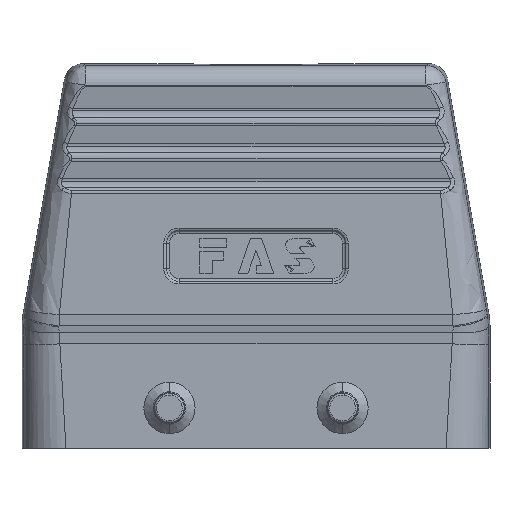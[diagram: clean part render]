
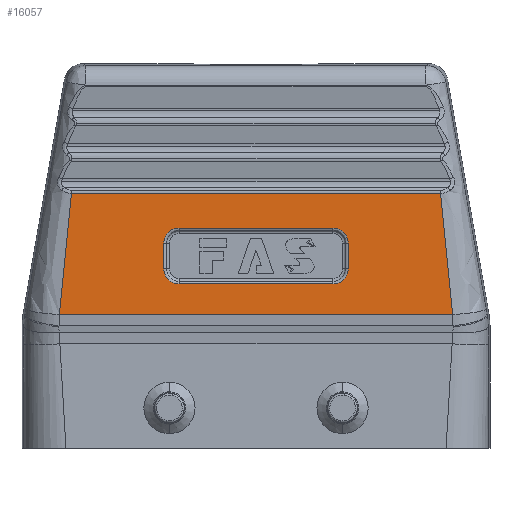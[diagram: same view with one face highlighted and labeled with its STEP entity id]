
A CAD part, front view. The second image highlights one B-rep face of the part: STEP entity #16057.
In plain terms, the highlighted planar face has unit normal (0, -1, 0).
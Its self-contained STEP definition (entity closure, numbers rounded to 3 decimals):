
#290 = EDGE_LOOP ( 'NONE', ( #1283, #4897, #5144, #17147, #13334, #17569, #22353, #10888 ) ) ;
#462 = CARTESIAN_POINT ( 'NONE',  ( 30.672, -22., 20.875 ) ) ;
#731 = CARTESIAN_POINT ( 'NONE',  ( -14.366, -22., 33.386 ) ) ;
#1060 = DIRECTION ( 'NONE',  ( 0., 1., 0. ) ) ;
#1109 = VERTEX_POINT ( 'NONE', #9968 ) ;
#1283 = ORIENTED_EDGE ( 'NONE', *, *, #21686, .F. ) ;
#1510 = VERTEX_POINT ( 'NONE', #5107 ) ;
#1809 = CARTESIAN_POINT ( 'NONE',  ( 30.672, -22., 20.875 ) ) ;
#1818 = CARTESIAN_POINT ( 'NONE',  ( 12., -22., 25.634 ) ) ;
#2616 = CARTESIAN_POINT ( 'NONE',  ( 29.597, -22., 33.477 ) ) ;
#3533 = LINE ( 'NONE', #25221, #10234 ) ;
#3699 =( BOUNDED_CURVE ( )  B_SPLINE_CURVE ( 3, ( #20703, #4738, #9155, #9325 ),
 .UNSPECIFIED., .F., .F. ) 
 B_SPLINE_CURVE_WITH_KNOTS ( ( 4, 4 ),
 ( 0., 1. ),
 .UNSPECIFIED. ) 
 CURVE ( )  GEOMETRIC_REPRESENTATION_ITEM ( )  RATIONAL_B_SPLINE_CURVE ( ( 1., 0.805, 0.805, 1. ) ) 
 REPRESENTATION_ITEM ( '' )  );
#3737 = EDGE_CURVE ( 'NONE', #1109, #14670, #23518, .T. ) ;
#4495 = CARTESIAN_POINT ( 'NONE',  ( 28.792, -22., 39.758 ) ) ;
#4738 = CARTESIAN_POINT ( 'NONE',  ( 14.366, -22., 33.386 ) ) ;
#4779 = EDGE_CURVE ( 'NONE', #14670, #9433, #22153, .T. ) ;
#4849 = EDGE_CURVE ( 'NONE', #9433, #21083, #7405, .T. ) ;
#4897 = ORIENTED_EDGE ( 'NONE', *, *, #7824, .F. ) ;
#5107 = CARTESIAN_POINT ( 'NONE',  ( -30.672, -22., 20.875 ) ) ;
#5144 = ORIENTED_EDGE ( 'NONE', *, *, #4849, .F. ) ;
#5878 = VECTOR ( 'NONE', #21197, 1000. ) ;
#6216 = CARTESIAN_POINT ( 'NONE',  ( 14.366, -22., 0. ) ) ;
#6283 = CARTESIAN_POINT ( 'NONE',  ( 30.248, -22., 27.182 ) ) ;
#6541 = CARTESIAN_POINT ( 'NONE',  ( -14.366, -22., 32. ) ) ;
#6736 = ORIENTED_EDGE ( 'NONE', *, *, #14957, .F. ) ;
#6804 = VERTEX_POINT ( 'NONE', #13525 ) ;
#7282 = EDGE_CURVE ( 'NONE', #11691, #8108, #17398, .T. ) ;
#7351 = EDGE_LOOP ( 'NONE', ( #6736, #24681, #14705, #21794 ) ) ;
#7405 = LINE ( 'NONE', #16273, #21739 ) ;
#7824 = EDGE_CURVE ( 'NONE', #21083, #15316, #12795, .T. ) ;
#8108 = VERTEX_POINT ( 'NONE', #14779 ) ;
#8370 = VERTEX_POINT ( 'NONE', #4495 ) ;
#9155 = CARTESIAN_POINT ( 'NONE',  ( 13.386, -22., 34.366 ) ) ;
#9325 = CARTESIAN_POINT ( 'NONE',  ( 12., -22., 34.366 ) ) ;
#9433 = VERTEX_POINT ( 'NONE', #15619 ) ;
#9894 = DIRECTION ( 'NONE',  ( 0., 0., 1. ) ) ;
#9968 = CARTESIAN_POINT ( 'NONE',  ( 12., -22., 34.366 ) ) ;
#10234 = VECTOR ( 'NONE', #13768, 1000. ) ;
#10312 = VECTOR ( 'NONE', #15534, 1000. ) ;
#10364 = CARTESIAN_POINT ( 'NONE',  ( -14.366, -22., 26.614 ) ) ;
#10630 = CARTESIAN_POINT ( 'NONE',  ( -13.386, -22., 34.366 ) ) ;
#10822 = CARTESIAN_POINT ( 'NONE',  ( -12., -22., 34.366 ) ) ;
#10888 = ORIENTED_EDGE ( 'NONE', *, *, #15251, .F. ) ;
#11380 =( BOUNDED_CURVE ( )  B_SPLINE_CURVE ( 3, ( #1818, #21028, #13786, #15903 ),
 .UNSPECIFIED., .F., .F. ) 
 B_SPLINE_CURVE_WITH_KNOTS ( ( 4, 4 ),
 ( 0., 1. ),
 .UNSPECIFIED. ) 
 CURVE ( )  GEOMETRIC_REPRESENTATION_ITEM ( )  RATIONAL_B_SPLINE_CURVE ( ( 1., 0.805, 0.805, 1. ) ) 
 REPRESENTATION_ITEM ( '' )  );
#11691 = VERTEX_POINT ( 'NONE', #12085 ) ;
#11976 = EDGE_CURVE ( 'NONE', #13720, #8370, #3533, .T. ) ;
#12021 = CARTESIAN_POINT ( 'NONE',  ( -264.098, -22., 20.875 ) ) ;
#12085 = CARTESIAN_POINT ( 'NONE',  ( 14.366, -22., 28. ) ) ;
#12088 = VECTOR ( 'NONE', #12344, 1000. ) ;
#12174 = CARTESIAN_POINT ( 'NONE',  ( 29.208, -22., 36.619 ) ) ;
#12196 = VECTOR ( 'NONE', #9894, 1000. ) ;
#12344 = DIRECTION ( 'NONE',  ( -1., 0., 0. ) ) ;
#12394 = CARTESIAN_POINT ( 'NONE',  ( -12., -22., 25.634 ) ) ;
#12622 = FACE_OUTER_BOUND ( 'NONE', #7351, .T. ) ;
#12795 =( BOUNDED_CURVE ( )  B_SPLINE_CURVE ( 3, ( #22371, #10364, #20174, #18383 ),
 .UNSPECIFIED., .F., .T. ) 
 B_SPLINE_CURVE_WITH_KNOTS ( ( 4, 4 ),
 ( 0., 1. ),
 .UNSPECIFIED. ) 
 CURVE ( )  GEOMETRIC_REPRESENTATION_ITEM ( )  RATIONAL_B_SPLINE_CURVE ( ( 1., 0.805, 0.805, 1. ) ) 
 REPRESENTATION_ITEM ( '' )  );
#12959 = CARTESIAN_POINT ( 'NONE',  ( -23.5, -22., 0. ) ) ;
#12976 = AXIS2_PLACEMENT_3D ( 'NONE', #12959, #1060, #14745 ) ;
#13334 = ORIENTED_EDGE ( 'NONE', *, *, #3737, .F. ) ;
#13525 = CARTESIAN_POINT ( 'NONE',  ( 12., -22., 25.634 ) ) ;
#13720 = VERTEX_POINT ( 'NONE', #18710 ) ;
#13768 = DIRECTION ( 'NONE',  ( 1., 0., 0. ) ) ;
#13786 = CARTESIAN_POINT ( 'NONE',  ( 14.366, -22., 26.614 ) ) ;
#13924 = LINE ( 'NONE', #12021, #12088 ) ;
#14238 = CARTESIAN_POINT ( 'NONE',  ( -12., -22., 34.366 ) ) ;
#14670 = VERTEX_POINT ( 'NONE', #10822 ) ;
#14705 = ORIENTED_EDGE ( 'NONE', *, *, #11976, .F. ) ;
#14720 = CARTESIAN_POINT ( 'NONE',  ( -14.366, -22., 28. ) ) ;
#14745 = DIRECTION ( 'NONE',  ( 0., 0., 1. ) ) ;
#14779 = CARTESIAN_POINT ( 'NONE',  ( 14.366, -22., 32. ) ) ;
#14822 = CARTESIAN_POINT ( 'NONE',  ( -23.5, -22., 34.366 ) ) ;
#14957 = EDGE_CURVE ( 'NONE', #23501, #1510, #13924, .T. ) ;
#14980 = EDGE_CURVE ( 'NONE', #8370, #23501, #18478, .T. ) ;
#15220 = CARTESIAN_POINT ( 'NONE',  ( -29.596, -22., 33.477 ) ) ;
#15251 = EDGE_CURVE ( 'NONE', #6804, #11691, #11380, .T. ) ;
#15316 = VERTEX_POINT ( 'NONE', #12394 ) ;
#15384 = CARTESIAN_POINT ( 'NONE',  ( -29.207, -22., 36.619 ) ) ;
#15534 = DIRECTION ( 'NONE',  ( 1., 0., 0. ) ) ;
#15619 = CARTESIAN_POINT ( 'NONE',  ( -14.366, -22., 32. ) ) ;
#15839 = LINE ( 'NONE', #17678, #10312 ) ;
#15903 = CARTESIAN_POINT ( 'NONE',  ( 14.366, -22., 28. ) ) ;
#16057 = ADVANCED_FACE ( 'NONE', ( #23871, #12622 ), #24576, .F. ) ;
#16273 = CARTESIAN_POINT ( 'NONE',  ( -14.366, -22., 0. ) ) ;
#16571 = EDGE_CURVE ( 'NONE', #1510, #13720, #24798, .T. ) ;
#17147 = ORIENTED_EDGE ( 'NONE', *, *, #4779, .F. ) ;
#17398 = LINE ( 'NONE', #6216, #12196 ) ;
#17569 = ORIENTED_EDGE ( 'NONE', *, *, #17610, .F. ) ;
#17610 = EDGE_CURVE ( 'NONE', #8108, #1109, #3699, .T. ) ;
#17678 = CARTESIAN_POINT ( 'NONE',  ( -23.5, -22., 25.634 ) ) ;
#17906 = CARTESIAN_POINT ( 'NONE',  ( 28.792, -22., 39.758 ) ) ;
#18383 = CARTESIAN_POINT ( 'NONE',  ( -12., -22., 25.634 ) ) ;
#18478 = B_SPLINE_CURVE_WITH_KNOTS ( 'NONE', 3,
 ( #17906, #12174, #2616, #6283, #19867, #462 ),
 .UNSPECIFIED., .F., .F.,
 ( 4, 2, 4 ),
 ( 0., 0.5, 1. ),
 .UNSPECIFIED. ) ;
#18710 = CARTESIAN_POINT ( 'NONE',  ( -28.792, -22., 39.758 ) ) ;
#19300 = CARTESIAN_POINT ( 'NONE',  ( -28.792, -22., 39.758 ) ) ;
#19387 = CARTESIAN_POINT ( 'NONE',  ( -30.509, -22., 24.029 ) ) ;
#19867 = CARTESIAN_POINT ( 'NONE',  ( 30.51, -22., 24.029 ) ) ;
#20174 = CARTESIAN_POINT ( 'NONE',  ( -13.386, -22., 25.634 ) ) ;
#20703 = CARTESIAN_POINT ( 'NONE',  ( 14.366, -22., 32. ) ) ;
#21028 = CARTESIAN_POINT ( 'NONE',  ( 13.386, -22., 25.634 ) ) ;
#21083 = VERTEX_POINT ( 'NONE', #14720 ) ;
#21197 = DIRECTION ( 'NONE',  ( -1., 0., 0. ) ) ;
#21686 = EDGE_CURVE ( 'NONE', #15316, #6804, #15839, .T. ) ;
#21739 = VECTOR ( 'NONE', #24415, 1000. ) ;
#21794 = ORIENTED_EDGE ( 'NONE', *, *, #16571, .F. ) ;
#22153 =( BOUNDED_CURVE ( )  B_SPLINE_CURVE ( 3, ( #14238, #10630, #731, #6541 ),
 .UNSPECIFIED., .F., .F. ) 
 B_SPLINE_CURVE_WITH_KNOTS ( ( 4, 4 ),
 ( 0., 1. ),
 .UNSPECIFIED. ) 
 CURVE ( )  GEOMETRIC_REPRESENTATION_ITEM ( )  RATIONAL_B_SPLINE_CURVE ( ( 1., 0.805, 0.805, 1. ) ) 
 REPRESENTATION_ITEM ( '' )  );
#22353 = ORIENTED_EDGE ( 'NONE', *, *, #7282, .F. ) ;
#22371 = CARTESIAN_POINT ( 'NONE',  ( -14.366, -22., 28. ) ) ;
#23194 = CARTESIAN_POINT ( 'NONE',  ( -30.248, -22., 27.183 ) ) ;
#23501 = VERTEX_POINT ( 'NONE', #1809 ) ;
#23518 = LINE ( 'NONE', #14822, #5878 ) ;
#23871 = FACE_BOUND ( 'NONE', #290, .T. ) ;
#24415 = DIRECTION ( 'NONE',  ( 0., 0., -1. ) ) ;
#24576 = PLANE ( 'NONE',  #12976 ) ;
#24681 = ORIENTED_EDGE ( 'NONE', *, *, #14980, .F. ) ;
#24798 = B_SPLINE_CURVE_WITH_KNOTS ( 'NONE', 3,
 ( #24881, #19387, #23194, #15220, #15384, #19300 ),
 .UNSPECIFIED., .F., .F.,
 ( 4, 2, 4 ),
 ( 0., 0.5, 1. ),
 .UNSPECIFIED. ) ;
#24881 = CARTESIAN_POINT ( 'NONE',  ( -30.672, -22., 20.875 ) ) ;
#25221 = CARTESIAN_POINT ( 'NONE',  ( -23.5, -22., 39.758 ) ) ;
